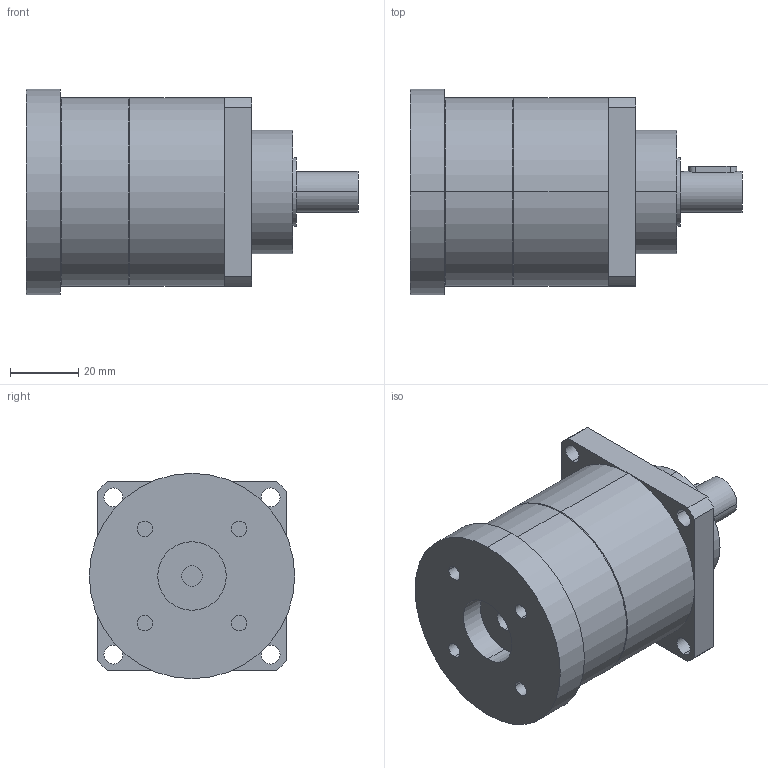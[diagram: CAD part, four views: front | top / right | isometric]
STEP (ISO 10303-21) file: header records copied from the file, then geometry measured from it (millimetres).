
FILE_DESCRIPTION(('CoCreate Modeling STEP Export'),'2;1');
FILE_NAME('GPT55_ig-3-4-5-7-10_12_B5A_6_P14.stp','2014-08-25T14:32:44',(''),(''),'CoCreate Modeling STEP processor for AP214 (Solid Model)','CoCreate Modeling 16.00C 25-Feb-2009 (C) Parametric Technology GmbH','');
FILE_SCHEMA(('AUTOMOTIVE_DESIGN { 1 0 10303 214 1 1 1 1 }'));
Length unit declared in the file: millimetre
Products named in the file (2): GPT55_ig-3-4-5-7-10_12_B5A_6_P14
Assembly tree (1 placements, depth 2):
  GPT55_ig-3-4-5-7-10_12_B5A_6_P14
    GPT55_ig-3-4-5-7-10_12_B5A_6_P14
Bounding box: 97 x 60 x 60 mm (x, y, z)
Volume: 176659.5 mm3; surface area: 23039.5 mm2
Topology: 1 solids, 1 shells, 69 faces, 173 edges, 118 vertices
Faces by surface type: cylinder 40, plane 25, cone 4
Entity records: 2172 total; most frequent: CARTESIAN_POINT 651, ORIENTED_EDGE 346, DIRECTION 260, EDGE_CURVE 173, VERTEX_POINT 118, AXIS2_PLACEMENT_3D 97, EDGE_LOOP 89, FACE_OUTER_BOUND 69
